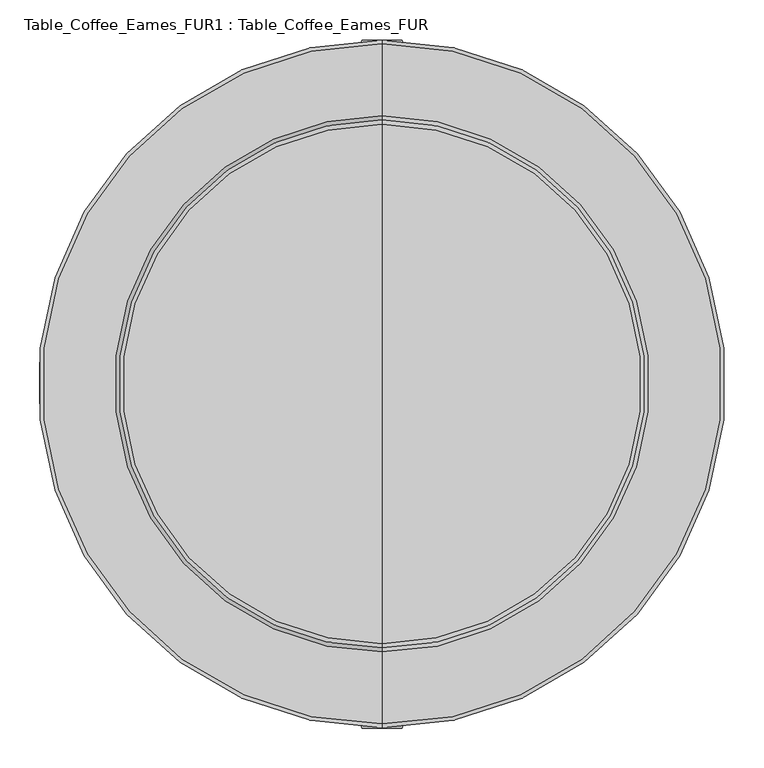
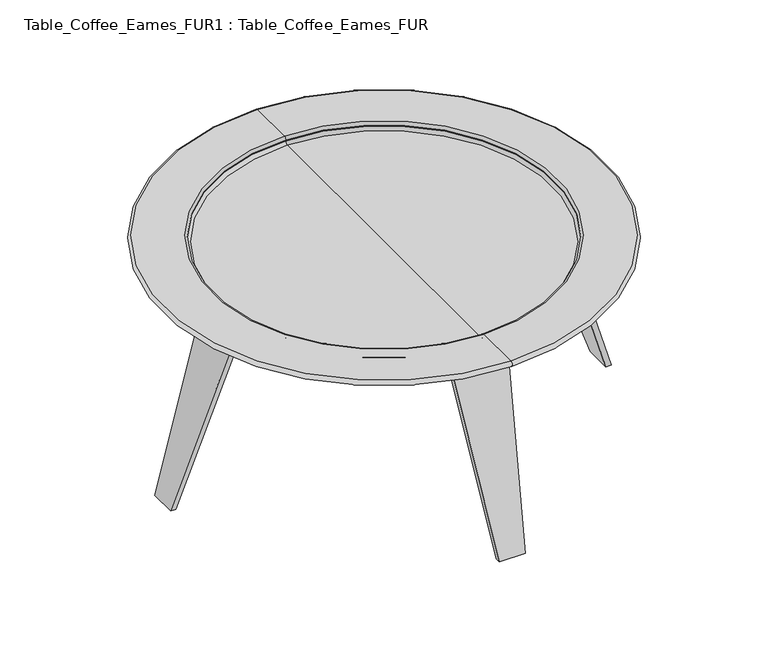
"""IFC4 building model written with IfcOpenShell, lengths in millimetres: furniture geometry, Table_Coffee_Eames_FUR1 : Table_Coffee_Eames_FUR."""

from ifc_helpers import new_model, si_unit, point, frame, origin, place, context, project, spatial, polyline, circle_curve, ellipse_curve, trimmed, source, transform, mapped, element, save
from ifc_brep_helpers import plane_surface, cylinder_surface, revolved_surface, advanced_brep


def table_coffee_eames_fur1_table_coffee_eames_fur_a77f6849(model_context):
    return source(origin(), model_context, "Body", "AdvancedBrep", [
        advanced_brep(
        [(-326.4095773, -180.4231083, 368.1673239), (-326.4095773, -63.8507615, 368.1673239), (-402.4940986, -68.6870158, 312.8886835), (-402.4940986, -175.5868539, 312.8886835), (171.5955942, -180.4231083, 368.1673239), (171.5955942, -63.8507615, 368.1673239), (247.6801155, -175.5868539, 312.8886835), (247.6801155, -68.6870158, 312.8886835), (349.3438114, -148.2126412, 0.0), (349.3438114, -96.0612286, 0.0), (338.8291892, -148.2126412, 0.0), (338.8291892, -96.0612286, 0.0), (238.1695503, -175.3164991, 309.7985135), (238.1695503, -68.9573707, 309.7985135), (171.5955942, -179.5482217, 358.1673239), (171.5955942, -64.7256481, 358.1673239), (-326.4095773, -179.5482217, 358.1673239), (-326.4095773, -64.7256481, 358.1673239), (-392.9835335, -175.3164991, 309.7985135), (-392.9835335, -68.9573707, 309.7985135), (-493.6431724, -148.2126412, 0.0), (-493.6431724, -96.0612286, 0.0), (-504.1577946, -148.2126412, 0.0), (-504.1577946, -96.0612286, 0.0)],
        [
            (0, 1),
            (1, 2, ellipse_curve(frame((-326.4095773, -70.8498545, 288.1673239), z_axis=(0.0, -0.9961946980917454, 0.08715574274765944), x_axis=(0.0, -0.08715574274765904, -0.9961946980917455)), 80.305587, 80.0)),
            (2, 3),
            (3, 0, ellipse_curve(frame((-326.4095773, -173.4240152, 288.1673239), z_axis=(0.0, 0.9961946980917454, 0.08715574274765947), x_axis=(0.0, -0.08715574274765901, 0.9961946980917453)), 80.305587, 80.0)),
            (4, 5),
            (5, 1),
            (0, 4),
            (6, 7),
            (7, 5, ellipse_curve(frame((171.5955942, -70.8498545, 288.1673239), z_axis=(0.0, -0.9961946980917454, 0.08715574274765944), x_axis=(0.0, -0.08715574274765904, -0.9961946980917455)), 80.305587, 80.0)),
            (4, 6, ellipse_curve(frame((171.5955942, -173.4240152, 288.1673239), z_axis=(0.0, 0.9961946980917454, 0.08715574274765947), x_axis=(0.0, -0.08715574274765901, 0.9961946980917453)), 80.305587, 80.0)),
            (8, 9),
            (9, 7),
            (6, 8),
            (10, 11),
            (11, 9),
            (8, 10),
            (12, 13),
            (13, 11),
            (10, 12),
            (14, 15),
            (15, 13, ellipse_curve(frame((171.5955942, -70.8498545, 288.1673239), z_axis=(0.0, 0.9961946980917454, -0.08715574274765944), x_axis=(0.0, 0.08715574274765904, 0.9961946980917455)), 70.2673886, 70.0)),
            (12, 14, ellipse_curve(frame((171.5955942, -173.4240152, 288.1673239), z_axis=(0.0, -0.9961946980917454, -0.08715574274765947), x_axis=(0.0, 0.08715574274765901, -0.9961946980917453)), 70.2673886, 70.0)),
            (16, 17),
            (17, 15),
            (14, 16),
            (18, 19),
            (19, 17, ellipse_curve(frame((-326.4095773, -70.8498545, 288.1673239), z_axis=(0.0, 0.9961946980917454, -0.08715574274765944), x_axis=(0.0, 0.08715574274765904, 0.9961946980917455)), 70.2673886, 70.0)),
            (16, 18, ellipse_curve(frame((-326.4095773, -173.4240152, 288.1673239), z_axis=(0.0, -0.9961946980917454, -0.08715574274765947), x_axis=(0.0, 0.08715574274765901, -0.9961946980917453)), 70.2673886, 70.0)),
            (20, 21),
            (21, 19),
            (18, 20),
            (22, 23),
            (23, 21),
            (20, 22),
            (2, 23),
            (22, 3),
        ],
        [
            cylinder_surface(frame((-326.4095773, -45.1704954, 288.1673239), z_axis=(0.0, -1.0, 0.0), x_axis=(-1.0, 0.0, 0.0)), 80.0),
            plane_surface(frame((-326.4095773, -202.791268, 368.1673239), z_axis=(0.0, 0.0, 1.0), x_axis=(0.0, 1.0, 0.0))),
            cylinder_surface(frame((171.5955942, -45.1704954, 288.1673239), z_axis=(0.0, -1.0, 0.0), x_axis=(-1.0, 0.0, 0.0)), 80.0),
            plane_surface(frame((247.6801155, -202.791268, 312.8886835), z_axis=(0.9510565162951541, 0.0, 0.3090169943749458), x_axis=(0.0, 1.0, 0.0))),
            plane_surface(frame((349.3438114, -202.791268, 0.0), z_axis=(0.0, 0.0, -1.0), x_axis=(0.0, 1.0, 0.0))),
            plane_surface(frame((338.8291892, -202.791268, 0.0), z_axis=(-0.9510565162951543, 0.0, -0.3090169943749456), x_axis=(0.0, 1.0, 0.0))),
            revolved_surface(polyline([(101.5955942, -64.72564805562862, 288.1673239), (101.5955942, -179.5482217, 288.1673239)]), (171.5955942, -45.1704954, 288.1673239), (0.0, 1.0, 0.0)),
            plane_surface(frame((171.5955942, -202.791268, 358.1673239), z_axis=(0.0, 0.0, -1.0), x_axis=(0.0, 1.0, 0.0))),
            revolved_surface(polyline([(-396.4095773, -64.72564805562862, 288.1673239), (-396.4095773, -179.5482217, 288.1673239)]), (-326.4095773, -45.1704954, 288.1673239), (0.0, 1.0, 0.0)),
            plane_surface(frame((-392.9835335, -202.791268, 309.7985135), z_axis=(0.9510565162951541, 0.0, -0.30901699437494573), x_axis=(0.0, 1.0, 0.0))),
            plane_surface(frame((-493.6431724, -202.791268, 0.0), z_axis=(0.0, 0.0, -1.0), x_axis=(0.0, 1.0, 0.0))),
            plane_surface(frame((-504.1577946, -202.791268, 0.0), z_axis=(-0.9510565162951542, 0.0, 0.3090169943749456), x_axis=(0.0, 1.0, 0.0))),
            plane_surface(frame((474.3875752, -180.4231083, 368.1673239), z_axis=(0.0, -0.9961946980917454, -0.08715574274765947), x_axis=(-1.0, 0.0, 0.0))),
            plane_surface(frame((474.3875752, -96.9361152, -10.0), z_axis=(0.0, 0.9961946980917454, -0.08715574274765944), x_axis=(-1.0, 0.0, 0.0))),
        ],
        [
            (0, [[1, 2, 3, 4]]),
            (1, [[5, 6, -1, 7]]),
            (2, [[8, 9, -5, 10]]),
            (3, [[11, 12, -8, 13]]),
            (4, [[14, 15, -11, 16]]),
            (5, [[17, 18, -14, 19]]),
            (6, [[20, 21, -17, 22]]),
            (7, [[23, 24, -20, 25]]),
            (8, [[26, 27, -23, 28]]),
            (9, [[29, 30, -26, 31]]),
            (10, [[32, 33, -29, 34]]),
            (11, [[-3, 35, -32, 36]]),
            (12, [[-36, -34, -31, -28, -25, -22, -19, -16, -13, -10, -7, -4]]),
            (13, [[-6, -9, -12, -15, -18, -21, -24, -27, -30, -33, -35, -2]]),
        ],
    ),
        advanced_brep(
        [(-18.0184727, -372.5885221, 377.3267589), (-134.4437398, -372.5885221, 377.3267589), (-129.6074854, -448.6730434, 322.0481185), (-22.8547271, -448.6730434, 322.0481185), (-18.0184727, 125.9628816, 377.3267589), (-134.4437398, 125.9628816, 377.3267589), (-22.8547271, 202.0474029, 322.0481185), (-129.6074854, 202.0474029, 322.0481185), (-51.0302866, 306.6871798, 0.0), (-101.4319259, 306.6871798, 0.0), (-51.0302866, 296.1725575, 0.0), (-101.4319259, 296.1725575, 0.0), (-23.051542, 192.2637217, 319.7985135), (-129.4106705, 192.2637217, 319.7985135), (-18.8198195, 125.6897655, 368.1673239), (-133.642393, 125.6897655, 368.1673239), (-18.8198195, -37.1369349, 368.1673239), (-18.8198195, -63.8507615, 368.1673239), (-18.8198195, -180.4231083, 368.1673239), (-18.8198195, -207.1369349, 368.1673239), (-18.8198195, -372.315406, 368.1673239), (-133.642393, -372.315406, 368.1673239), (-133.642393, -207.1369349, 368.1673239), (-133.642393, -180.4231083, 368.1673239), (-133.642393, -63.8507615, 368.1673239), (-133.642393, -37.1369349, 368.1673239), (-23.051542, -438.8893621, 319.7985135), (-129.4106705, -438.8893621, 319.7985135), (-51.0302866, -542.798198, 0.0), (-101.4319259, -542.798198, 0.0), (-51.0302866, -553.3128202, 0.0), (-101.4319259, -553.3128202, 0.0)],
        [
            (0, 1),
            (1, 2, ellipse_curve(frame((-127.4446467, -372.5885221, 297.3267589), z_axis=(0.9961946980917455, 0.0, 0.08715574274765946), x_axis=(0.08715574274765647, 0.0, -0.9961946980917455)), 80.305587, 80.0)),
            (2, 3),
            (3, 0, ellipse_curve(frame((-25.0175658, -372.5885221, 297.3267589), z_axis=(-0.9961946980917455, 0.0, 0.08715574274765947), x_axis=(0.08715574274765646, 0.0, 0.9961946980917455)), 80.305587, 80.0)),
            (4, 5),
            (5, 1),
            (0, 4),
            (6, 7),
            (7, 5, ellipse_curve(frame((-127.4446467, 125.9628816, 297.3267589), z_axis=(0.9961946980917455, 0.0, 0.08715574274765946), x_axis=(0.08715574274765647, 0.0, -0.9961946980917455)), 80.305587, 80.0)),
            (4, 6, ellipse_curve(frame((-25.0175658, 125.9628816, 297.3267589), z_axis=(-0.9961946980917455, 0.0, 0.08715574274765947), x_axis=(0.08715574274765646, 0.0, 0.9961946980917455)), 80.305587, 80.0)),
            (8, 9),
            (9, 7),
            (6, 8),
            (10, 11),
            (11, 9),
            (8, 10),
            (12, 13),
            (13, 11),
            (10, 12),
            (14, 15),
            (15, 13, ellipse_curve(frame((-127.5181866, 125.6897655, 298.1673239), z_axis=(-0.9961946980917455, 0.0, -0.08715574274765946), x_axis=(-0.08715574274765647, 0.0, 0.9961946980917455)), 70.2673886, 70.0)),
            (12, 14, ellipse_curve(frame((-24.9440259, 125.6897655, 298.1673239), z_axis=(0.9961946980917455, 0.0, -0.08715574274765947), x_axis=(-0.08715574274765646, 0.0, -0.9961946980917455)), 70.2673886, 70.0)),
            (14, 16),
            (16, 17),
            (17, 18),
            (18, 19),
            (19, 20),
            (20, 21),
            (21, 22),
            (22, 23),
            (23, 24),
            (24, 25),
            (25, 15),
            (26, 27),
            (27, 21, ellipse_curve(frame((-127.5181866, -372.315406, 298.1673239), z_axis=(-0.9961946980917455, 0.0, -0.08715574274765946), x_axis=(-0.08715574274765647, 0.0, 0.9961946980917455)), 70.2673886, 70.0)),
            (20, 26, ellipse_curve(frame((-24.9440259, -372.315406, 298.1673239), z_axis=(0.9961946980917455, 0.0, -0.08715574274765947), x_axis=(-0.08715574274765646, 0.0, -0.9961946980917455)), 70.2673886, 70.0)),
            (28, 29),
            (29, 27),
            (26, 28),
            (30, 31),
            (31, 29),
            (28, 30),
            (2, 31),
            (30, 3),
        ],
        [
            cylinder_surface(frame((-153.1975457, -372.5885221, 297.3267589), z_axis=(1.0, 0.0, 0.0), x_axis=(0.0, -1.0, 0.0)), 80.0),
            plane_surface(frame((4.4232269, -372.5885221, 377.3267589), z_axis=(0.0, 0.0, 1.0), x_axis=(-1.0, 0.0, 0.0))),
            cylinder_surface(frame((-153.1975457, 125.9628816, 297.3267589), z_axis=(1.0, 0.0, 0.0), x_axis=(0.0, -1.0, 0.0)), 80.0),
            plane_surface(frame((4.4232269, 202.0474029, 322.0481185), z_axis=(0.0, 0.9510565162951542, 0.30901699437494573), x_axis=(-1.0, 0.0, 0.0))),
            plane_surface(frame((4.4232269, 306.6871798, 0.0), z_axis=(0.0, 0.0, -1.0), x_axis=(-1.0, 0.0, 0.0))),
            plane_surface(frame((4.4232269, 296.1725575, 0.0), z_axis=(0.0, -0.9510565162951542, -0.3090169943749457), x_axis=(-1.0, 0.0, 0.0))),
            revolved_surface(polyline([(-133.6423930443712, 55.68976549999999, 298.1673239), (-18.819819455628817, 55.68976549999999, 298.1673239)]), (-153.1975457, 125.6897655, 298.1673239), (-1.0, 0.0, 0.0)),
            plane_surface(frame((4.4232269, 125.6897655, 368.1673239), z_axis=(0.0, 0.0, -1.0), x_axis=(-1.0, 0.0, 0.0))),
            revolved_surface(polyline([(-133.6423930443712, -442.315406, 298.1673239), (-18.819819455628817, -442.315406, 298.1673239)]), (-153.1975457, -372.315406, 298.1673239), (-1.0, 0.0, 0.0)),
            plane_surface(frame((4.4232269, -438.8893621, 319.7985135), z_axis=(0.0, 0.9510565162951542, -0.30901699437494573), x_axis=(-1.0, 0.0, 0.0))),
            plane_surface(frame((4.4232269, -542.798198, 0.0), z_axis=(0.0, 0.0, -1.0), x_axis=(-1.0, 0.0, 0.0))),
            plane_surface(frame((4.4232269, -553.3128202, 0.0), z_axis=(0.0, -0.9510565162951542, 0.30901699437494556), x_axis=(-1.0, 0.0, 0.0))),
            plane_surface(frame((-18.0184727, 428.4817465, 377.3267589), z_axis=(0.9961946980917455, 0.0, -0.08715574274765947), x_axis=(0.0, -1.0, 0.0))),
            plane_surface(frame((-100.9944826, 428.4817465, -5.0), z_axis=(-0.9961946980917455, 0.0, -0.08715574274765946), x_axis=(0.0, -1.0, 0.0))),
        ],
        [
            (0, [[1, 2, 3, 4]]),
            (1, [[5, 6, -1, 7]]),
            (2, [[8, 9, -5, 10]]),
            (3, [[11, 12, -8, 13]]),
            (4, [[14, 15, -11, 16]]),
            (5, [[17, 18, -14, 19]]),
            (6, [[20, 21, -17, 22]]),
            (7, [[23, 24, 25, 26, 27, 28, 29, 30, 31, 32, 33, -20]]),
            (8, [[34, 35, -28, 36]]),
            (9, [[37, 38, -34, 39]]),
            (10, [[40, 41, -37, 42]]),
            (11, [[-3, 43, -40, 44]]),
            (12, [[-44, -42, -39, -36, -27, -26, -25, -24, -23, -22, -19, -16, -13, -10, -7, -4]]),
            (13, [[-6, -9, -12, -15, -18, -21, -33, -32, -31, -30, -29, -35, -38, -41, -43, -2]]),
        ],
    ),
        advanced_brep(
        [(-76.2311063, -548.3128202, 400.0), (-76.2311063, -458.3128202, 400.0), (-76.2311063, 211.6871798, 400.0), (-76.2311063, 301.6871798, 400.0), (-76.2311063, -548.3128202, 390.0), (-76.2311063, 301.6871798, 390.0), (-76.2311063, -475.9099368, 390.0), (-76.2311063, 229.2842964, 390.0), (-76.2311063, -461.6040008, 384.7930651), (-76.2311063, 214.9783603, 384.7930651), (-76.2311063, -459.2540109, 382.8211895), (-76.2311063, 212.6283705, 382.8211895), (-76.2311063, -444.3993142, 377.4145221), (-76.2311063, 197.7736738, 377.4145221), (-76.2311063, -123.3128202, 377.4145221), (-76.2311063, -447.7682857, 387.4145221), (-76.2311063, -123.3128202, 387.4145221), (-76.2311063, 201.1426452, 387.4145221), (-76.2311063, -453.3128202, 392.9590566), (-76.2311063, 206.6871798, 392.9590566), (-76.2311063, -453.3128202, 395.0), (-76.2311063, 206.6871798, 395.0)],
        [
            (0, 1),
            (1, 2, circle_curve(frame((-76.2311063, -123.3128202, 400.0), z_axis=(0.0, 0.0, -1.0), x_axis=(0.0, 1.0, 0.0)), 335.0)),
            (2, 3),
            (3, 0, circle_curve(frame((-76.2311063, -123.3128202, 400.0), z_axis=(0.0, 0.0, 1.0), x_axis=(0.0, 1.0, 0.0)), 425.0)),
            (2, 1, circle_curve(frame((-76.2311063, -123.3128202, 400.0), z_axis=(0.0, 0.0, -1.0), x_axis=(0.0, 1.0, 0.0)), 335.0)),
            (0, 3, circle_curve(frame((-76.2311063, -123.3128202, 400.0), z_axis=(0.0, 0.0, 1.0), x_axis=(0.0, 1.0, 0.0)), 425.0)),
            (4, 0, circle_curve(frame((-76.2311063, -548.3128202, 395.0), z_axis=(-1.0, 0.0, 0.0), x_axis=(0.0, 1.0, 0.0)), 5.0)),
            (3, 5, circle_curve(frame((-76.2311063, 301.6871798, 395.0), z_axis=(-1.0, 0.0, 0.0), x_axis=(0.0, -1.0, 0.0)), 5.0)),
            (5, 4, circle_curve(frame((-76.2311063, -123.3128202, 390.0), z_axis=(0.0, 0.0, 1.0), x_axis=(0.0, 1.0, 0.0)), 425.0)),
            (4, 5, circle_curve(frame((-76.2311063, -123.3128202, 390.0), z_axis=(0.0, 0.0, 1.0), x_axis=(0.0, 1.0, 0.0)), 425.0)),
            (6, 4),
            (5, 7),
            (7, 6, circle_curve(frame((-76.2311063, -123.3128202, 390.0), z_axis=(0.0, 0.0, 1.0), x_axis=(0.0, 1.0, 0.0)), 352.5971166)),
            (6, 7, circle_curve(frame((-76.2311063, -123.3128202, 390.0), z_axis=(0.0, 0.0, 1.0), x_axis=(0.0, 1.0, 0.0)), 352.5971166)),
            (8, 6, circle_curve(frame((-76.2311063, -475.9099368, 367.7439144), z_axis=(1.0, 0.0, 0.0), x_axis=(0.0, 1.0, 0.0)), 22.2560856)),
            (7, 9, circle_curve(frame((-76.2311063, 229.2842964, 367.7439144), z_axis=(1.0, 0.0, 0.0), x_axis=(0.0, -1.0, 0.0)), 22.2560856)),
            (9, 8, circle_curve(frame((-76.2311063, -123.3128202, 384.7930651), z_axis=(0.0, 0.0, 1.0), x_axis=(0.0, 1.0, 0.0)), 338.2911805)),
            (8, 9, circle_curve(frame((-76.2311063, -123.3128202, 384.7930651), z_axis=(0.0, 0.0, 1.0), x_axis=(0.0, 1.0, 0.0)), 338.2911805)),
            (10, 8),
            (9, 11),
            (11, 10, circle_curve(frame((-76.2311063, -123.3128202, 382.8211895), z_axis=(0.0, 0.0, 1.0), x_axis=(0.0, 1.0, 0.0)), 335.9411907)),
            (10, 11, circle_curve(frame((-76.2311063, -123.3128202, 382.8211895), z_axis=(0.0, 0.0, 1.0), x_axis=(0.0, 1.0, 0.0)), 335.9411907)),
            (12, 10, circle_curve(frame((-76.2311063, -444.3993142, 400.5243276), z_axis=(-1.0, 0.0, 0.0), x_axis=(0.0, 1.0, 0.0)), 23.1098056)),
            (11, 13, circle_curve(frame((-76.2311063, 197.7736738, 400.5243276), z_axis=(-1.0, 0.0, 0.0), x_axis=(0.0, -1.0, 0.0)), 23.1098056)),
            (13, 12, circle_curve(frame((-76.2311063, -123.3128202, 377.4145221), z_axis=(0.0, 0.0, 1.0), x_axis=(0.0, 1.0, 0.0)), 321.086494)),
            (12, 13, circle_curve(frame((-76.2311063, -123.3128202, 377.4145221), z_axis=(0.0, 0.0, 1.0), x_axis=(0.0, 1.0, 0.0)), 321.086494)),
            (14, 12),
            (13, 14),
            (15, 16),
            (16, 17),
            (17, 15, circle_curve(frame((-76.2311063, -123.3128202, 387.4145221), z_axis=(0.0, 0.0, 1.0), x_axis=(0.0, 1.0, 0.0)), 324.4554655)),
            (15, 17, circle_curve(frame((-76.2311063, -123.3128202, 387.4145221), z_axis=(0.0, 0.0, 1.0), x_axis=(0.0, 1.0, 0.0)), 324.4554655)),
            (18, 15, circle_curve(frame((-76.2311063, -447.7682857, 392.9590566), z_axis=(1.0, 0.0, 0.0), x_axis=(0.0, 1.0, 0.0)), 5.5445345)),
            (17, 19, circle_curve(frame((-76.2311063, 201.1426452, 392.9590566), z_axis=(1.0, 0.0, 0.0), x_axis=(0.0, -1.0, 0.0)), 5.5445345)),
            (19, 18, circle_curve(frame((-76.2311063, -123.3128202, 392.9590566), z_axis=(0.0, 0.0, 1.0), x_axis=(0.0, 1.0, 0.0)), 330.0)),
            (18, 19, circle_curve(frame((-76.2311063, -123.3128202, 392.9590566), z_axis=(0.0, 0.0, 1.0), x_axis=(0.0, 1.0, 0.0)), 330.0)),
            (20, 18),
            (19, 21),
            (21, 20, circle_curve(frame((-76.2311063, -123.3128202, 395.0), z_axis=(0.0, 0.0, 1.0), x_axis=(0.0, 1.0, 0.0)), 330.0)),
            (20, 21, circle_curve(frame((-76.2311063, -123.3128202, 395.0), z_axis=(0.0, 0.0, 1.0), x_axis=(0.0, 1.0, 0.0)), 330.0)),
            (1, 20, circle_curve(frame((-76.2311063, -458.3128202, 395.0), z_axis=(-1.0, 0.0, 0.0), x_axis=(0.0, 1.0, 0.0)), 5.0)),
            (21, 2, circle_curve(frame((-76.2311063, 211.6871798, 395.0), z_axis=(-1.0, 0.0, 0.0), x_axis=(0.0, -1.0, 0.0)), 5.0)),
        ],
        [
            plane_surface(frame((-76.2311063, -123.3128202, 400.0), z_axis=(0.0, 0.0, 1.0), x_axis=(0.0, 1.0, 0.0))),
            revolved_surface(trimmed(ellipse_curve(frame((-76.2311063, 301.6871798, 395.0), z_axis=(-1.0, 0.0, 0.0), x_axis=(0.0, -1.0, 0.0)), 5.0, 5.0), [point((-76.2311063, 301.6871798, 400.0))], [point((-76.2311063, 301.6871798, 390.0))], True, "CARTESIAN"), (-76.2311063, -123.3128202, 497.4145221), (0.0, 0.0, -1.0)),
            plane_surface(frame((-76.2311063, -123.3128202, 390.0), z_axis=(0.0, 0.0, -1.0), x_axis=(0.0, 1.0, 0.0))),
            revolved_surface(trimmed(ellipse_curve(frame((-76.2311063, 229.2842964, 367.7439144), z_axis=(1.0, 0.0, 0.0), x_axis=(0.0, -1.0, 0.0)), 22.2560856, 22.2560856), [point((-76.2311063, 229.2842964, 390.0))], [point((-76.2311063, 214.9783603, 384.7930651))], True, "CARTESIAN"), (-76.2311063, -123.3128202, 497.4145221), (0.0, 0.0, -1.0)),
            revolved_surface(polyline([(-76.2311063, 214.9783603, 384.7930651), (-76.2311063, 212.6283705, 382.8211895)]), (-76.2311063, -123.3128202, 497.4145221), (0.0, 0.0, -1.0)),
            revolved_surface(trimmed(ellipse_curve(frame((-76.2311063, 197.7736738, 400.5243276), z_axis=(-1.0, 0.0, 0.0), x_axis=(0.0, -1.0, 0.0)), 23.1098056, 23.1098056), [point((-76.2311063, 212.6283705, 382.8211895))], [point((-76.2311063, 197.7736738, 377.4145221))], True, "CARTESIAN"), (-76.2311063, -123.3128202, 497.4145221), (0.0, 0.0, -1.0)),
            plane_surface(frame((-76.2311063, -123.3128202, 377.4145221), z_axis=(0.0, 0.0, -1.0), x_axis=(0.0, 1.0, 0.0))),
            plane_surface(frame((-76.2311063, -123.3128202, 387.4145221), z_axis=(0.0, 0.0, 1.0), x_axis=(0.0, 1.0, 0.0))),
            revolved_surface(trimmed(ellipse_curve(frame((-76.2311063, 201.1426452, 392.9590566), z_axis=(1.0, 0.0, 0.0), x_axis=(0.0, -1.0, 0.0)), 5.5445345, 5.5445345), [point((-76.2311063, 201.1426452, 387.4145221))], [point((-76.2311063, 206.6871798, 392.9590566))], True, "CARTESIAN"), (-76.2311063, -123.3128202, 497.4145221), (0.0, 0.0, -1.0)),
            revolved_surface(polyline([(-76.2311063, 206.6871798, 392.9590566), (-76.2311063, 206.6871798, 395.0)]), (-76.2311063, -123.3128202, 497.4145221), (0.0, 0.0, -1.0)),
            revolved_surface(trimmed(ellipse_curve(frame((-76.2311063, 211.6871798, 395.0), z_axis=(-1.0, 0.0, 0.0), x_axis=(0.0, -1.0, 0.0)), 5.0, 5.0), [point((-76.2311063, 206.6871798, 395.0))], [point((-76.2311063, 211.6871798, 400.0))], True, "CARTESIAN"), (-76.2311063, -123.3128202, 497.4145221), (0.0, 0.0, -1.0)),
        ],
        [
            (0, [[1, 2, 3, 4]]),
            (0, [[-3, 5, -1, 6]]),
            (1, [[7, -4, 8, 9]]),
            (1, [[-8, -6, -7, 10]]),
            (2, [[11, -9, 12, 13]]),
            (2, [[-12, -10, -11, 14]]),
            (3, [[15, -13, 16, 17]]),
            (3, [[-16, -14, -15, 18]]),
            (4, [[19, -17, 20, 21]]),
            (4, [[-20, -18, -19, 22]]),
            (5, [[23, -21, 24, 25]]),
            (5, [[-24, -22, -23, 26]]),
            (6, [[27, -25, 28]]),
            (6, [[-28, -26, -27]]),
            (7, [[29, 30, 31]]),
            (7, [[-30, -29, 32]]),
            (8, [[33, -31, 34, 35]]),
            (8, [[-34, -32, -33, 36]]),
            (9, [[37, -35, 38, 39]]),
            (9, [[-38, -36, -37, 40]]),
            (10, [[41, -39, 42, -2]]),
            (10, [[-42, -40, -41, -5]]),
        ],
    ),
    ])


if __name__ == "__main__":
    model = new_model("IFC4")
    model_context = context("Model", 3, world=origin())
    ifc_project = project(units=[si_unit("LENGTHUNIT", "METRE", prefix="MILLI")], contexts=[model_context])
    site = spatial("IfcSite", under=ifc_project)
    building = spatial("IfcBuilding", under=site)
    placement = place(None, origin())
    table_coffee_eames_fur1_table_coffee_eames_fur_shape = table_coffee_eames_fur1_table_coffee_eames_fur_a77f6849(model_context)
    element("IfcFurniture", 1, ObjectType="Table_Coffee_Eames_FUR1 : Table_Coffee_Eames_FUR", at=placement, inside=building, context=model_context, shape_type="MappedRepresentation", body=[
        mapped(table_coffee_eames_fur1_table_coffee_eames_fur_shape, transform((0.0, 0.0, 0.0), x_axis=(1.0, 0.0, 0.0), y_axis=(0.0, 1.0, 0.0), z_axis=(0.0, 0.0, 1.0))),
    ])
    save(model, "model.ifc")
